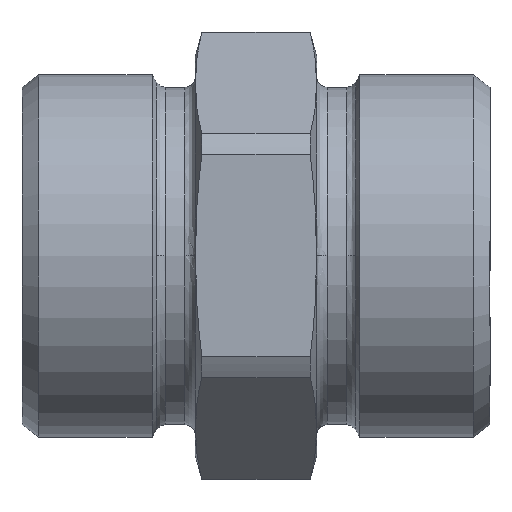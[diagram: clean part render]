
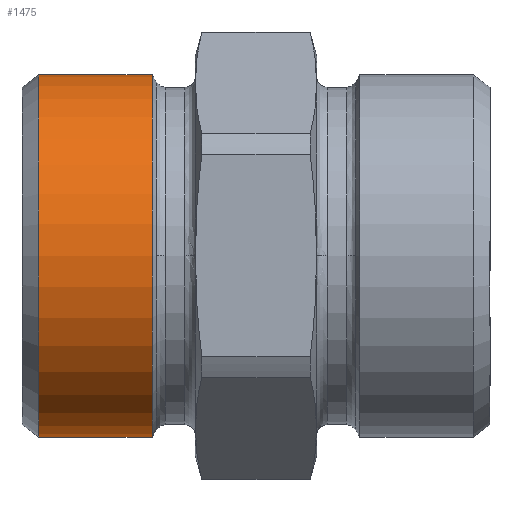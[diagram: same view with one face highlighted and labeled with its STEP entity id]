
A CAD part, top view. The second image highlights one B-rep face of the part: STEP entity #1475.
In plain terms, the highlighted cylindrical face has radius 20.91 mm (diameter 41.82 mm), a partial arc.
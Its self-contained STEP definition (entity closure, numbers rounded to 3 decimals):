
#859=CARTESIAN_POINT('',(0.,-20.91,25.063));
#860=VERTEX_POINT('',#859);
#861=CARTESIAN_POINT('',(0.,-20.91,11.993));
#862=VERTEX_POINT('',#861);
#863=CARTESIAN_POINT('',(0.,-20.91,25.063));
#864=DIRECTION('',(0.0,0.0,-1.0));
#865=VECTOR('',#864,13.07);
#866=LINE('',#863,#865);
#867=EDGE_CURVE('',#860,#862,#866,.T.);
#869=CARTESIAN_POINT('',(0.,20.91,25.063));
#870=VERTEX_POINT('',#869);
#878=CARTESIAN_POINT('',(0.,20.91,11.993));
#879=VERTEX_POINT('',#878);
#880=CARTESIAN_POINT('',(0.,20.91,11.993));
#881=DIRECTION('',(0.0,0.0,1.0));
#882=VECTOR('',#881,13.07);
#883=LINE('',#880,#882);
#884=EDGE_CURVE('',#879,#870,#883,.T.);
#1351=CARTESIAN_POINT('',(0.,0.,11.993));
#1352=DIRECTION('',(0.0,0.0,-1.0));
#1353=DIRECTION('',(0.0,-1.0,0.0));
#1354=AXIS2_PLACEMENT_3D('',#1351,#1352,#1353);
#1355=CIRCLE('',#1354,20.91);
#1356=EDGE_CURVE('',#879,#862,#1355,.T.);
#1452=CARTESIAN_POINT('',(0.,0.,25.063));
#1453=DIRECTION('',(0.0,0.0,-1.0));
#1454=DIRECTION('',(0.0,-1.0,0.0));
#1455=AXIS2_PLACEMENT_3D('',#1452,#1453,#1454);
#1456=CIRCLE('',#1455,20.91);
#1457=EDGE_CURVE('',#870,#860,#1456,.T.);
#1464=CARTESIAN_POINT('',(0.,0.,18.528));
#1465=DIRECTION('',(0.,0.,-1.0));
#1466=DIRECTION('',(0.0,-1.0,0.0));
#1467=AXIS2_PLACEMENT_3D('',#1464,#1465,#1466);
#1468=CYLINDRICAL_SURFACE('',#1467,20.91);
#1469=ORIENTED_EDGE('',*,*,#867,.T.);
#1470=ORIENTED_EDGE('',*,*,#1356,.F.);
#1471=ORIENTED_EDGE('',*,*,#884,.T.);
#1472=ORIENTED_EDGE('',*,*,#1457,.T.);
#1473=EDGE_LOOP('',(#1469,#1470,#1471,#1472));
#1474=FACE_OUTER_BOUND('',#1473,.T.);
#1475=ADVANCED_FACE('',(#1474),#1468,.T.);
